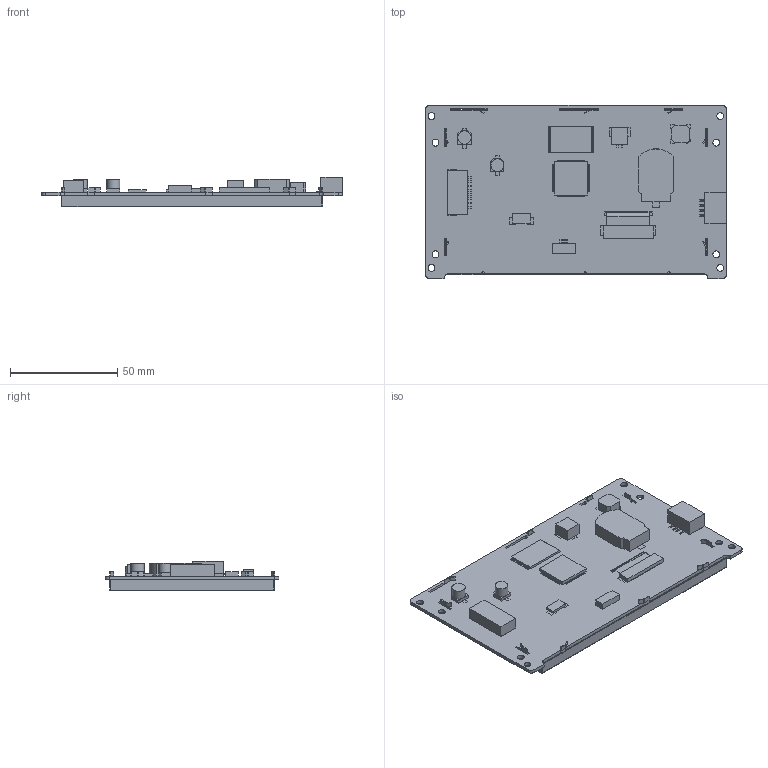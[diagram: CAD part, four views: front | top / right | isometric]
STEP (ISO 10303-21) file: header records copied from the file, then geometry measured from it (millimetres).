
FILE_DESCRIPTION(/* description */ (''),/* implementation_level */ '2;1');
FILE_NAME(/* name */ '3D_SDWa050T67N.stp',/* time_stamp */ '2020-09-09T10:55:10+08:00',/* author */ (''),/* organization */ (''),/* preprocessor_version */ 'ST-DEVELOPER v15',/* originating_system */ 'SIEMENS PLM Software NX 8.5',/* authorisation */ '');
FILE_SCHEMA (('AP203_CONFIGURATION_CONTROLLED_3D_DESIGN_OF_MECHANICAL_PARTS_AND_ASSEMBLIES_MIM_LF { 1 0 10303 403 2 1 2}'));
Length unit declared in the file: millimetre
Products named in the file (1): SDWa050T67
Bounding box: 140 x 80.9 x 13.91 mm (x, y, z)
Volume: 70168.8 mm3; surface area: 75159.7 mm2
Topology: 315 solids, 315 shells, 1997 faces, 4100 edges, 2733 vertices
Faces by surface type: plane 1945, cylinder 49, extrusion 3
Full cylindrical faces by diameter (mm): 3.2 x8, 5.931 x1, 6.258 x1
Entity records: 65629 total; most frequent: CARTESIAN_POINT 9001, ORIENTED_EDGE 8176, DIRECTION 8168, EDGE_CURVE 4088, VECTOR 3986, LINE 3983, VERTEX_POINT 2733, AXIS2_PLACEMENT_3D 2091
